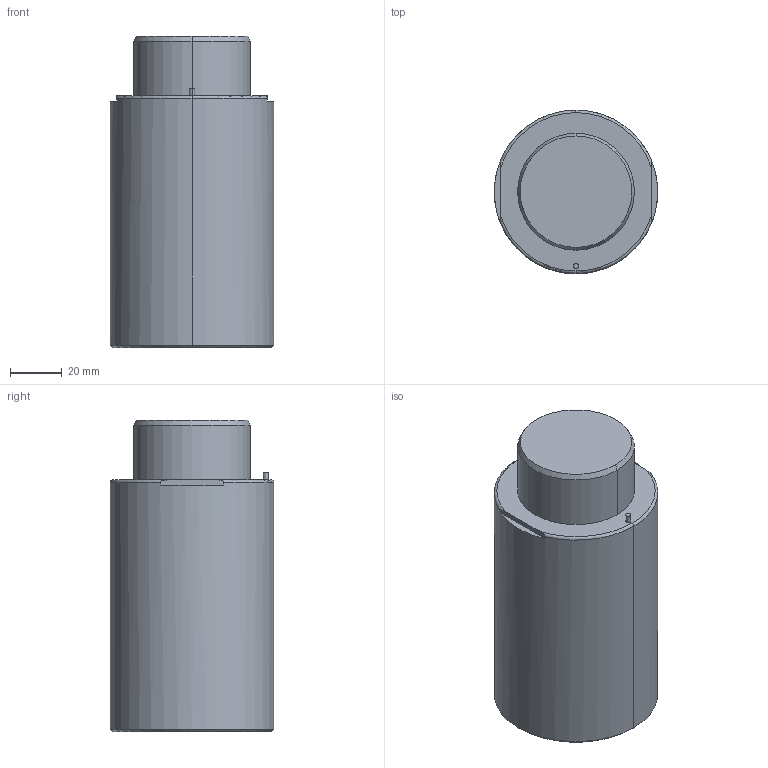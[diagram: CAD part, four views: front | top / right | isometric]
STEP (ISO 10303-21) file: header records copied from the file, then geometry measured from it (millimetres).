
FILE_DESCRIPTION(/* description */ (''),/* implementation_level */ '2;1');
FILE_NAME(/* name */ '3d_gsx63-20_03979_r00.stp',/* time_stamp */ '2011-01-10T14:15:12+09:00',/* author */ ('MISUMI'),/* organization */ (''),/* preprocessor_version */ 'ST-DEVELOPER v11',/* originating_system */ 'UGS - NX 5.0',/* authorisation */ '');
FILE_SCHEMA (('CONFIG_CONTROL_DESIGN'));
Length unit declared in the file: millimetre
Products named in the file (1): 3d_gsx63-20_03979_r00
Bounding box: 63 x 63 x 120 mm (x, y, z)
Volume: 335238.2 mm3; surface area: 30092.5 mm2
Topology: 1 solids, 1 shells, 59 faces, 130 edges, 78 vertices
Faces by surface type: cylinder 28, plane 15, cone 12, torus 4
Entity records: 1692 total; most frequent: DIRECTION 308, CARTESIAN_POINT 288, ORIENTED_EDGE 244, AXIS2_PLACEMENT_3D 130, EDGE_CURVE 122, VERTEX_POINT 78, EDGE_LOOP 72, CIRCLE 70
